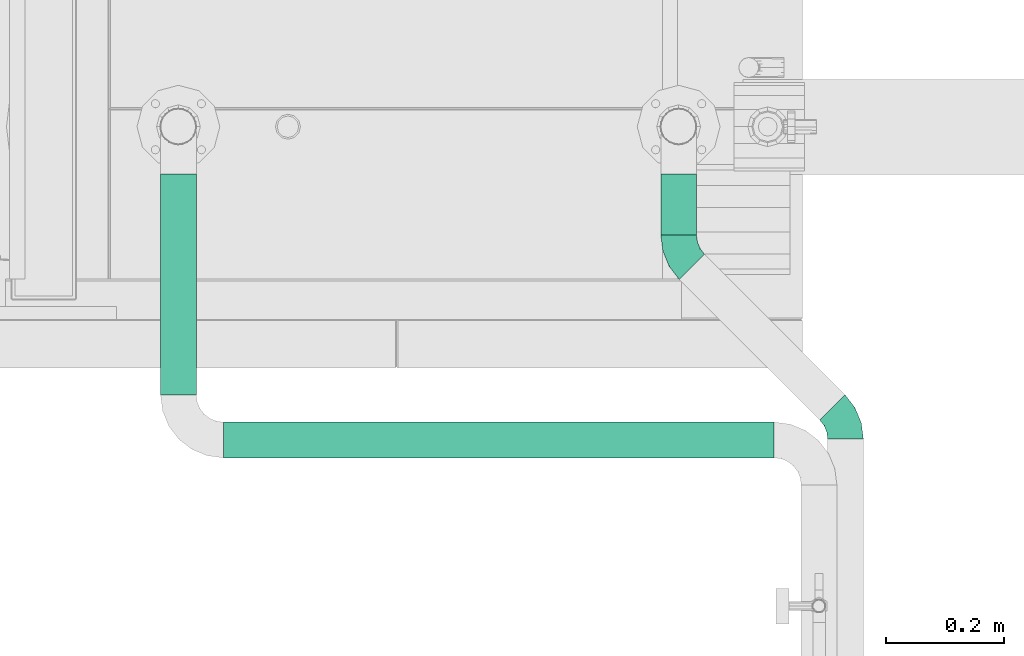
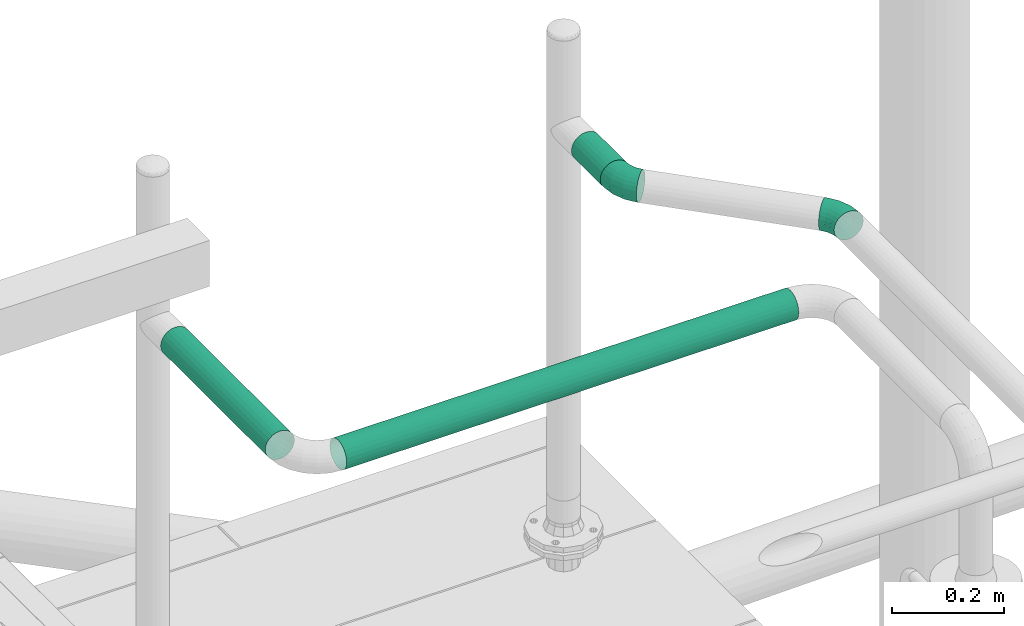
# One storey, part 292 of 374: 5 flow segments.
"""IFC2X3 building model written with IfcOpenShell, lengths in metres."""

import ifcopenshell
import ifcopenshell.guid

model = None  # the IFC model being written
_history = None  # IfcOwnerHistory: only IFC2X3 demands one
_inside = {}  # id of a spatial element -> (the spatial element, [elements in it])
_under = {}  # id of a project, library or spatial element -> (it, [spatial elements below it])
_declared = {}  # id of a project -> (the project, [libraries it declares])
_typed = {}  # id of a type object -> (the type object, [elements of that type])
_made_of = {}  # id of a material, layer set ... -> (it, [elements and type objects made of it])


def new_model(schema):
    """Start an empty IFC model of exactly this schema.

    Asked for "IFC4X3", IfcOpenShell would pick the latest addendum, in which some entities
    have other attributes; the version numbers below select the first issue.
    IFC2X3 requires an IfcOwnerHistory on every rooted entity: one is made here for all.
    """
    global model, _history
    if schema == "IFC4X3":
        model = ifcopenshell.file(schema_version=(4, 3, 0, 0))
    else:
        model = ifcopenshell.file(schema=schema)
    _inside.clear()
    _under.clear()
    _declared.clear()
    _typed.clear()
    _made_of.clear()
    _history = None
    if model.schema == "IFC2X3":
        org = make("IfcOrganization", Name="unknown")
        user = make(
            "IfcPersonAndOrganization",
            ThePerson=make("IfcPerson", FamilyName="unknown"),
            TheOrganization=org,
        )
        app = make(
            "IfcApplication",
            ApplicationDeveloper=org,
            Version="unknown",
            ApplicationFullName="unknown",
            ApplicationIdentifier="unknown",
        )
        _history = make(
            "IfcOwnerHistory",
            OwningUser=user,
            OwningApplication=app,
            ChangeAction="ADDED",
            CreationDate=0,
        )
    return model


def make(cls, **values):
    """One entity of the class cls with the attributes given. An attribute that is None is left unset."""
    return model.create_entity(
        cls, **{name: value for name, value in values.items() if value is not None}
    )


def rooted(cls, **values):
    """An entity with a GlobalId (a new one), such as an element, a storey or a relation."""
    return make(cls, GlobalId=ifcopenshell.guid.new(), OwnerHistory=_history, **values)


def si_unit(unit_type, name, prefix=None):
    """IfcSIUnit, for example si_unit("LENGTHUNIT", "METRE", prefix="MILLI")."""
    return make("IfcSIUnit", UnitType=unit_type, Prefix=prefix, Name=name)


def assignment(units):
    """IfcUnitAssignment: the units of a project."""
    return None if units is None else make("IfcUnitAssignment", Units=units)


def point(xyz):
    """IfcCartesianPoint."""
    return None if xyz is None else make("IfcCartesianPoint", Coordinates=xyz)


def direction(xyz):
    """IfcDirection."""
    return None if xyz is None else make("IfcDirection", DirectionRatios=xyz)


def frame(location, z_axis=None, x_axis=None):
    """IfcAxis2Placement3D, a coordinate frame: its origin and axes. An axis left out is left unset."""
    return make(
        "IfcAxis2Placement3D",
        Location=point(location),
        Axis=direction(z_axis),
        RefDirection=direction(x_axis),
    )


def origin():
    """The frame at (0, 0, 0) with its axes left unset."""
    return frame((0.0, 0.0, 0.0))


def place(relative_to, where):
    """IfcLocalPlacement: puts the frame where relative to a parent placement (None: the world)."""
    return make(
        "IfcLocalPlacement", PlacementRelTo=relative_to, RelativePlacement=where
    )


def context(
    kind, dimensions, precision=None, world=None, true_north=None, identifier=None
):
    """IfcGeometricRepresentationContext, for example the 3D "Model" context."""
    return make(
        "IfcGeometricRepresentationContext",
        ContextIdentifier=identifier,
        ContextType=kind,
        CoordinateSpaceDimension=dimensions,
        Precision=precision,
        WorldCoordinateSystem=world,
        TrueNorth=true_north,
    )


def subcontext(parent, identifier, kind, view, scale=None):
    """IfcGeometricRepresentationSubContext, for example "Body" below "Model"."""
    return make(
        "IfcGeometricRepresentationSubContext",
        ContextIdentifier=identifier,
        ContextType=kind,
        ParentContext=parent,
        TargetScale=scale,
        TargetView=view,
    )


def project(units=None, contexts=None):
    """IfcProject with its units and contexts."""
    return rooted(
        "IfcProject",
        Name="project",
        RepresentationContexts=contexts,
        UnitsInContext=assignment(units),
    )


def spatial(cls, under=None, at=None, **own):
    """A site, building, storey or space (cls), placed at a placement, below another one or the project."""
    s = rooted(cls, ObjectPlacement=at, **own)
    if under is not None:
        _under.setdefault(under.id(), (under, []))[1].append(s)
    return s


def faces_of(points, faces, orient=None, outer=None):
    """IfcFace entities. A face is a list of loops; a loop is a list of indices into points, from 0.

    orient and outer hold one flag for each loop. By default every Orientation is true, the
    first loop of a face is its IfcFaceOuterBound and the others are IfcFaceBound.
    """
    made = []
    for i, loops in enumerate(faces):
        bounds = []
        for j, loop in enumerate(loops):
            is_outer = j == 0 if outer is None else outer[i][j]
            bounds.append(
                make(
                    "IfcFaceOuterBound" if is_outer else "IfcFaceBound",
                    Bound=make("IfcPolyLoop", Polygon=[points[k] for k in loop]),
                    Orientation=True if orient is None else orient[i][j],
                )
            )
        made.append(make("IfcFace", Bounds=bounds))
    return made


def open_shell(faces, orient=None, outer=None):
    """The faces of one IfcOpenShell. surface_model builds it on its shared points."""
    return ("IfcOpenShell", faces, orient, outer)


def surface_model(cls, points, shells):
    """IfcFaceBasedSurfaceModel or IfcShellBasedSurfaceModel (cls): surfaces that need not close."""
    shared = [point(p) for p in points]
    made = [make(c, CfsFaces=faces_of(shared, fs, o, b)) for c, fs, o, b in shells]
    if cls == "IfcFaceBasedSurfaceModel":
        return make(cls, FbsmFaces=made)
    return make(cls, SbsmBoundary=made)


def shape(context_of_items, identifier, shape_type, items):
    """IfcShapeRepresentation: the items that make up one representation, for example the "Body"."""
    return make(
        "IfcShapeRepresentation",
        ContextOfItems=context_of_items,
        RepresentationIdentifier=identifier,
        RepresentationType=shape_type,
        Items=items,
    )


def source(mapping_origin, context_of_items, identifier, shape_type, items):
    """IfcRepresentationMap: a shape defined once, which mapped items show again and again."""
    return make(
        "IfcRepresentationMap",
        MappingOrigin=mapping_origin,
        MappedRepresentation=shape(context_of_items, identifier, shape_type, items),
    )


def transform(
    local_origin,
    x_axis=None,
    y_axis=None,
    z_axis=None,
    scale=None,
    scale2=None,
    scale3=None,
    uniform=True,
):
    """IfcCartesianTransformationOperator3D, or its non-uniform kind. x_axis, y_axis, z_axis: its Axis1, 2, 3."""
    if uniform:
        return make(
            "IfcCartesianTransformationOperator3D",
            Axis1=direction(x_axis),
            Axis2=direction(y_axis),
            LocalOrigin=point(local_origin),
            Scale=scale,
            Axis3=direction(z_axis),
        )
    return make(
        "IfcCartesianTransformationOperator3DnonUniform",
        Axis1=direction(x_axis),
        Axis2=direction(y_axis),
        LocalOrigin=point(local_origin),
        Scale=scale,
        Axis3=direction(z_axis),
        Scale2=scale2,
        Scale3=scale3,
    )


def mapped(mapping_source, mapping_target):
    """IfcMappedItem: shows the shape of a source again, moved by a transform."""
    return make(
        "IfcMappedItem", MappingSource=mapping_source, MappingTarget=mapping_target
    )


def made_of(thing, what):
    """Note that an element or type object is made of a material, layer set ...; save() writes the relation."""
    if what is not None:
        _made_of.setdefault(what.id(), (what, []))[1].append(thing)
    return thing


def element(
    cls,
    number,
    at=None,
    inside=None,
    cuts=None,
    type_object=None,
    material=None,
    context=None,
    identifier="Body",
    shape_type=None,
    held_by="IfcProductDefinitionShape",
    body=None,
    shapes=None,
    **own,
):
    """One element of the class cls, such as IfcWall. Its Tag is "e" and its number.

    at: its placement. inside: the storey or other place that contains it. cuts: it is an
    opening in that element (IfcRelVoidsElement). A single representation is given by context,
    identifier, shape_type and body (its items); several are given by shapes. held_by: the class
    of the entity that holds the representations. save() writes the other relations.
    """
    e = rooted(cls, Tag="e%d" % number, ObjectPlacement=at, **own)
    if body is not None:
        shapes = [shape(context, identifier, shape_type, body)]
    if shapes is not None:
        e.Representation = make(held_by, Representations=shapes)
    if inside is not None:
        _inside.setdefault(inside.id(), (inside, []))[1].append(e)
    if cuts is not None:
        rooted(
            "IfcRelVoidsElement", RelatingBuildingElement=cuts, RelatedOpeningElement=e
        )
    if type_object is not None:
        _typed.setdefault(type_object.id(), (type_object, []))[1].append(e)
    return made_of(e, material)


def aggregate(whole, parts):
    """IfcRelAggregates: a whole, such as a stair, and the parts it consists of."""
    return rooted("IfcRelAggregates", RelatingObject=whole, RelatedObjects=parts)


def save(model, path):
    """Write the relations noted so far, then the file.

    IfcRelAggregates (storeys below a building ...), IfcRelContainedInSpatialStructure (elements
    in a storey), IfcRelDefinesByType, IfcRelAssociatesMaterial and IfcRelDeclares: one each for
    every whole, place, type object, material and project.
    """
    for whole, parts in _under.values():
        aggregate(whole, parts)
    for where, things in _inside.values():
        rooted(
            "IfcRelContainedInSpatialStructure",
            RelatedElements=things,
            RelatingStructure=where,
        )
    for kind, things in _typed.values():
        rooted("IfcRelDefinesByType", RelatedObjects=things, RelatingType=kind)
    for what, things in _made_of.values():
        rooted("IfcRelAssociatesMaterial", RelatedObjects=things, RelatingMaterial=what)
    for by, libraries in _declared.values():
        rooted("IfcRelDeclares", RelatingContext=by, RelatedDefinitions=libraries)
    model.write(path)


model = new_model("IFC2X3")

# Units and contexts
model_context = context("Model", 3, precision=1e-05, world=origin(), true_north=direction((-0.4480736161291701, 0.8939966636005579)))
body_context = subcontext(model_context, "Body", "Model", "MODEL_VIEW")
ifc_project = project(units=[si_unit("LENGTHUNIT", "METRE"), si_unit("AREAUNIT", "SQUARE_METRE"), si_unit("VOLUMEUNIT", "CUBIC_METRE"), si_unit("PLANEANGLEUNIT", "RADIAN"), si_unit("THERMODYNAMICTEMPERATUREUNIT", "KELVIN"), si_unit("MASSUNIT", "GRAM", prefix="KILO"), si_unit("TIMEUNIT", "SECOND")], contexts=[model_context])

# Site, building, storey
site_placement = place(None, origin())
site = spatial("IfcSite", under=ifc_project, at=site_placement, Name="Site 1", CompositionType="ELEMENT")
building_placement = place(site_placement, origin())
building = spatial("IfcBuilding", under=site, at=building_placement, Name="Undefined", CompositionType="ELEMENT")
storey_placement = place(building_placement, origin())
storey = spatial("IfcBuildingStorey", under=building, at=storey_placement, Name="Rez de chauss\x8ee", CompositionType="ELEMENT", Elevation=0.0)

# Flow segments
shared_shape_1 = source(origin(), body_context, "Body", "SurfaceModel", [
    surface_model("IfcFaceBasedSurfaceModel", [(0.027710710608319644, 4.4408921e-16, 0.0), (0.02757661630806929, 0.00786958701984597, 7.105427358e-15), (0.00013409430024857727, 0.00786958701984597, 0.0), (0.0, 0.0, 0.0), (-0.02637334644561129, 0.008788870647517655, -0.0070429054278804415), (-0.026766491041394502, 0.0009282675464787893, -0.007111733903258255), (-0.050139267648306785, 0.010564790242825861, -0.02064875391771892), (-0.050764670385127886, 0.0027215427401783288, -0.02085054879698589), (0.027183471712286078, 0.015466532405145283, -0.0020199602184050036), (0.0005272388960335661, 0.015466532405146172, -0.0020199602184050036), (-0.025220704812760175, 0.016359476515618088, -0.008861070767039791), (-0.048305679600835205, 0.018084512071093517, -0.02207708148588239), (0.026558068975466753, 0.022273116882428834, -0.005922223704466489), (0.001152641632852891, 0.02227311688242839, -0.005922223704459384), (-0.02338711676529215, 0.023124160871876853, -0.012442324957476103), (-0.04538886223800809, 0.02476825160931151, -0.02503819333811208), (0.025743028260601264, 0.0278254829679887, -0.011440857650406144), (0.0019676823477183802, 0.027825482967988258, -0.011440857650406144), (-0.020997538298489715, 0.028621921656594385, -0.017542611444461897), (-0.04158759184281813, 0.03016052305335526, -0.029330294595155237), (0.02479389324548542, 0.03174524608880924, -0.01819977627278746), (0.0029168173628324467, 0.03174524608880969, -0.01819977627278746), (-0.018214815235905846, 0.0324780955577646, -0.023814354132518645), (-0.03716091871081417, 0.033893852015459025, -0.034660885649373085), (0.023775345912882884, 0.03376528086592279, -0.02573837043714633), (0.003935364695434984, 0.03376528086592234, -0.02573837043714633), (-0.01522858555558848, 0.03442989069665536, -0.03083014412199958), (-0.0324105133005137, 0.03571381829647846, -0.040666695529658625), (0.022756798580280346, 0.03374792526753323, -0.033542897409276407), (0.0049539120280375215, 0.033747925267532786, -0.033542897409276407), (-0.01224235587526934, 0.03434429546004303, -0.03811186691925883), (-0.027660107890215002, 0.035496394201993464, -0.04693843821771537), (0.02180766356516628, 0.03169436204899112, -0.04108149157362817), (0.005903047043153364, 0.031694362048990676, -0.04108149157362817), (-0.00945963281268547, 0.03222714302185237, -0.045163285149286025), (-0.02323343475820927, 0.03325639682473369, -0.05304870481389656), (0.020992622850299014, 0.02774453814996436, -0.0478404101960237), (0.006718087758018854, 0.027744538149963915, -0.0478404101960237), (-0.007070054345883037, 0.02822271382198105, -0.05150385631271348), (-0.019432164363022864, 0.0291464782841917, -0.0585810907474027), (0.020367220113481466, 0.022167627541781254, -0.05335904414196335), (0.0073434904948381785, 0.022167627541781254, -0.05335904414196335), (-0.00523646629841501, 0.02260390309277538, -0.05670148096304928), (-0.016515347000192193, 0.023446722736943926, -0.06315857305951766), (0.019974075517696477, 0.01534368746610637, -0.05726130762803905), (0.007736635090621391, 0.01534368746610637, -0.05726130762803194), (-0.004083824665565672, 0.01575362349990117, -0.06040194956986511), (-0.014681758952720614, 0.01654555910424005, -0.06646920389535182), (0.019839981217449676, 0.00773775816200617, -0.05928126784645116), (0.007870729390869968, 0.007737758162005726, -0.05928126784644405), (-0.003690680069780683, 0.008138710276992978, -0.062353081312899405), (-0.014056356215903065, 0.008913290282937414, -0.06828736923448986), (0.019974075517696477, -0.0001318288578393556, -0.05928126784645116), (0.007736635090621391, -0.0001318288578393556, -0.05928126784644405), (-0.004083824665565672, 0.0002781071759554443, -0.06242190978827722), (-0.014681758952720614, 0.001070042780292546, -0.06848916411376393), (0.020367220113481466, -0.007728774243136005, -0.057261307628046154), (0.0073434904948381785, -0.007728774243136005, -0.057261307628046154), (-0.00523646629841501, -0.00729249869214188, -0.06060374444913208), (-0.016515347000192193, -0.0064496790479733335, -0.06706083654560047), (0.020992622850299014, -0.01453535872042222, -0.053359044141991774), (0.006718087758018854, -0.014535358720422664, -0.053359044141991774), (-0.007070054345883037, -0.01405718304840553, -0.05702249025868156), (-0.019432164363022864, -0.013133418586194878, -0.06409972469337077), (0.02180766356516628, -0.020087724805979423, -0.04784041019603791), (0.005903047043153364, -0.020087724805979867, -0.04784041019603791), (-0.00945963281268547, -0.019554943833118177, -0.05192220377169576), (-0.02323343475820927, -0.018525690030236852, -0.0598076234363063), (0.022756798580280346, -0.024007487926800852, -0.0410814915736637), (0.0049539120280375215, -0.024007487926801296, -0.0410814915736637), (-0.01224235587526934, -0.023411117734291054, -0.04565046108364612), (-0.027660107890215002, -0.022259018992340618, -0.054477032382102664), (0.023775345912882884, -0.026027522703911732, -0.033542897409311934), (0.003935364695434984, -0.026027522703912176, -0.033542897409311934), (-0.01522858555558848, -0.025362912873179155, -0.038634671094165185), (-0.0324105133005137, -0.024078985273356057, -0.04847122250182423), (0.02479389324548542, -0.02601016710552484, -0.02573837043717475), (0.0029168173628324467, -0.026010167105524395, -0.02573837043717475), (-0.018214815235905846, -0.025277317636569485, -0.031352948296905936), (-0.03716091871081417, -0.023861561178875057, -0.04219947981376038), (0.025743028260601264, -0.023956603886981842, -0.018199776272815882), (0.0019676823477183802, -0.023956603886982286, -0.018199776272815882), (-0.020997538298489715, -0.02316016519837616, -0.024301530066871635), (-0.04158759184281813, -0.021621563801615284, -0.036089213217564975), (0.026558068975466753, -0.020006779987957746, -0.011440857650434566), (0.001152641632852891, -0.02000677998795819, -0.01144085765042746), (-0.02338711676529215, -0.019155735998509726, -0.01796095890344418), (-0.04538886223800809, -0.01751164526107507, -0.030556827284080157), (0.027183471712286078, -0.014429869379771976, -0.005922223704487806), (0.0005272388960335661, -0.014429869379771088, -0.005922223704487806), (-0.025220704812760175, -0.013536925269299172, -0.012763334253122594), (-0.048305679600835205, -0.011811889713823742, -0.02597934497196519), (0.02757661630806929, -0.007605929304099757, -0.0020199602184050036), (0.00013409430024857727, -0.007605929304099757, -0.002019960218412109), (-0.02637334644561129, -0.006686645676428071, -0.00906286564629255), (-0.050139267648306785, -0.004910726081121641, -0.02266871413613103)], [open_shell([[[0, 1, 2, 3]], [[3, 2, 4, 5]], [[5, 4, 6, 7]], [[1, 8, 9, 2]], [[2, 9, 10, 4]], [[4, 10, 11, 6]], [[8, 12, 13, 9]], [[9, 13, 14, 10]], [[10, 14, 15, 11]], [[12, 16, 17, 13]], [[13, 17, 18, 14]], [[14, 18, 19, 15]], [[16, 20, 21, 17]], [[17, 21, 22, 18]], [[18, 22, 23, 19]], [[20, 24, 25, 21]], [[21, 25, 26, 22]], [[22, 26, 27, 23]], [[24, 28, 29, 25]], [[25, 29, 30, 26]], [[26, 30, 31, 27]], [[28, 32, 33, 29]], [[29, 33, 34, 30]], [[30, 34, 35, 31]], [[32, 36, 37, 33]], [[33, 37, 38, 34]], [[34, 38, 39, 35]], [[36, 40, 41, 37]], [[37, 41, 42, 38]], [[38, 42, 43, 39]], [[40, 44, 45, 41]], [[41, 45, 46, 42]], [[42, 46, 47, 43]], [[44, 48, 49, 45]], [[45, 49, 50, 46]], [[46, 50, 51, 47]], [[48, 52, 53, 49]], [[49, 53, 54, 50]], [[50, 54, 55, 51]], [[52, 56, 57, 53]], [[53, 57, 58, 54]], [[54, 58, 59, 55]], [[56, 60, 61, 57]], [[57, 61, 62, 58]], [[58, 62, 63, 59]], [[60, 64, 65, 61]], [[61, 65, 66, 62]], [[62, 66, 67, 63]], [[64, 68, 69, 65]], [[65, 69, 70, 66]], [[66, 70, 71, 67]], [[68, 72, 73, 69]], [[69, 73, 74, 70]], [[70, 74, 75, 71]], [[72, 76, 77, 73]], [[73, 77, 78, 74]], [[74, 78, 79, 75]], [[76, 80, 81, 77]], [[77, 81, 82, 78]], [[78, 82, 83, 79]], [[80, 84, 85, 81]], [[81, 85, 86, 82]], [[82, 86, 87, 83]], [[84, 88, 89, 85]], [[85, 89, 90, 86]], [[86, 90, 91, 87]], [[88, 92, 93, 89]], [[89, 93, 94, 90]], [[90, 94, 95, 91]], [[92, 0, 3, 93]], [[93, 3, 5, 94]], [[94, 5, 7, 95]]])]),
])
flow_segment_1_placement = place(storey_placement, origin())
element("IfcFlowSegment", 1, at=flow_segment_1_placement, inside=storey, Name="Tube coudé", ObjectType="Tube coudé", context=body_context, shape_type="MappedRepresentation", body=[
    mapped(shared_shape_1, transform((54.735566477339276, 12.845851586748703, 2.1879999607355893), x_axis=(-0.13052619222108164, 0.9914448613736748, 0.0), y_axis=(0.12832103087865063, 0.01689378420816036, -0.9915887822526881), z_axis=(-0.9831056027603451, -0.1294283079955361, -0.12942830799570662))),
])
shared_shape_2 = source(origin(), body_context, "Body", "SurfaceModel", [
    surface_model("IfcFaceBasedSurfaceModel", [(0.027710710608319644, 4.4408921e-16, 0.0), (0.02757661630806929, 0.00786958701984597, 7.105427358e-15), (0.00013409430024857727, 0.00786958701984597, 0.0), (0.0, 0.0, 0.0), (-0.02637334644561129, 0.008788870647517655, -0.0070429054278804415), (-0.026766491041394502, 0.0009282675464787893, -0.007111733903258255), (-0.050139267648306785, 0.010564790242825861, -0.02064875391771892), (-0.050764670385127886, 0.0027215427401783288, -0.02085054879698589), (0.027183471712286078, 0.015466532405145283, -0.0020199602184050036), (0.0005272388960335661, 0.015466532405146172, -0.0020199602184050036), (-0.025220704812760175, 0.016359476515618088, -0.008861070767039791), (-0.048305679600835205, 0.018084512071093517, -0.02207708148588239), (0.026558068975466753, 0.022273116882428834, -0.005922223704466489), (0.001152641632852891, 0.02227311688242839, -0.005922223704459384), (-0.02338711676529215, 0.023124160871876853, -0.012442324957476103), (-0.04538886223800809, 0.02476825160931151, -0.02503819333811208), (0.025743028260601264, 0.0278254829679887, -0.011440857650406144), (0.0019676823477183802, 0.027825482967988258, -0.011440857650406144), (-0.020997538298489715, 0.028621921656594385, -0.017542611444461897), (-0.04158759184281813, 0.03016052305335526, -0.029330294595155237), (0.02479389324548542, 0.03174524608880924, -0.01819977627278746), (0.0029168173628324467, 0.03174524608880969, -0.01819977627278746), (-0.018214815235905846, 0.0324780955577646, -0.023814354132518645), (-0.03716091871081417, 0.033893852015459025, -0.034660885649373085), (0.023775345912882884, 0.03376528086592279, -0.02573837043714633), (0.003935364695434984, 0.03376528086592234, -0.02573837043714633), (-0.01522858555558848, 0.03442989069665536, -0.03083014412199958), (-0.0324105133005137, 0.03571381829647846, -0.040666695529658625), (0.022756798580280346, 0.03374792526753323, -0.033542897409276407), (0.0049539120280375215, 0.033747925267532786, -0.033542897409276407), (-0.01224235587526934, 0.03434429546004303, -0.03811186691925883), (-0.027660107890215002, 0.035496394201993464, -0.04693843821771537), (0.02180766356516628, 0.03169436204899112, -0.04108149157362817), (0.005903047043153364, 0.031694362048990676, -0.04108149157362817), (-0.00945963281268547, 0.03222714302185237, -0.045163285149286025), (-0.02323343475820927, 0.03325639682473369, -0.05304870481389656), (0.020992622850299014, 0.02774453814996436, -0.0478404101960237), (0.006718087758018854, 0.027744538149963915, -0.0478404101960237), (-0.007070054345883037, 0.02822271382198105, -0.05150385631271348), (-0.019432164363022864, 0.0291464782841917, -0.0585810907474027), (0.020367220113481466, 0.022167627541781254, -0.05335904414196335), (0.0073434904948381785, 0.022167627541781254, -0.05335904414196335), (-0.00523646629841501, 0.02260390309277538, -0.05670148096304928), (-0.016515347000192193, 0.023446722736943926, -0.06315857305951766), (0.019974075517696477, 0.01534368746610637, -0.05726130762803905), (0.007736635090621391, 0.01534368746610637, -0.05726130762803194), (-0.004083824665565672, 0.01575362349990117, -0.06040194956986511), (-0.014681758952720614, 0.01654555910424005, -0.06646920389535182), (0.019839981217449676, 0.00773775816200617, -0.05928126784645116), (0.007870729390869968, 0.007737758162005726, -0.05928126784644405), (-0.003690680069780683, 0.008138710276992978, -0.062353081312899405), (-0.014056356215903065, 0.008913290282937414, -0.06828736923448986), (0.019974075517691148, -0.00013182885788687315, -0.05928126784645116), (0.007736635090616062, -0.00013182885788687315, -0.05928126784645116), (-0.004083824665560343, 0.0002781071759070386, -0.062421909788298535), (-0.014681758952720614, 0.001070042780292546, -0.06848916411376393), (0.020367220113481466, -0.007728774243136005, -0.057261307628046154), (0.0073434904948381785, -0.007728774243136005, -0.057261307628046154), (-0.00523646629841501, -0.00729249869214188, -0.06060374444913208), (-0.016515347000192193, -0.0064496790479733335, -0.06706083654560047), (0.020992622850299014, -0.01453535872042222, -0.053359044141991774), (0.006718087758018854, -0.014535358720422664, -0.053359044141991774), (-0.007070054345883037, -0.01405718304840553, -0.05702249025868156), (-0.019432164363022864, -0.013133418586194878, -0.06409972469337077), (0.02180766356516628, -0.020087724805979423, -0.04784041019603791), (0.005903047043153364, -0.020087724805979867, -0.04784041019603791), (-0.00945963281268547, -0.019554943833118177, -0.05192220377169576), (-0.02323343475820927, -0.018525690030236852, -0.0598076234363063), (0.022756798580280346, -0.024007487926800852, -0.0410814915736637), (0.0049539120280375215, -0.024007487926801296, -0.0410814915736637), (-0.01224235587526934, -0.023411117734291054, -0.04565046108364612), (-0.027660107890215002, -0.022259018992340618, -0.054477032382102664), (0.023775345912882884, -0.026027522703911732, -0.033542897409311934), (0.003935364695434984, -0.026027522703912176, -0.033542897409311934), (-0.01522858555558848, -0.025362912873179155, -0.038634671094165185), (-0.0324105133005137, -0.024078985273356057, -0.04847122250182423), (0.02479389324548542, -0.02601016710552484, -0.02573837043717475), (0.0029168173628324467, -0.026010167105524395, -0.02573837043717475), (-0.018214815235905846, -0.025277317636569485, -0.031352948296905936), (-0.03716091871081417, -0.023861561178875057, -0.04219947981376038), (0.025743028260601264, -0.023956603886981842, -0.018199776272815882), (0.0019676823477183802, -0.023956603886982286, -0.018199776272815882), (-0.020997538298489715, -0.02316016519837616, -0.024301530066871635), (-0.04158759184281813, -0.021621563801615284, -0.036089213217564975), (0.026558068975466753, -0.020006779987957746, -0.011440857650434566), (0.001152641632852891, -0.02000677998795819, -0.01144085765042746), (-0.02338711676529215, -0.019155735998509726, -0.01796095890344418), (-0.04538886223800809, -0.01751164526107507, -0.030556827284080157), (0.027183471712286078, -0.014429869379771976, -0.005922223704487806), (0.0005272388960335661, -0.014429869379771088, -0.005922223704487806), (-0.025220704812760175, -0.013536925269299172, -0.012763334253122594), (-0.048305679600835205, -0.011811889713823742, -0.02597934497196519), (0.02757661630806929, -0.007605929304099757, -0.0020199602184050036), (0.00013409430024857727, -0.007605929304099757, -0.002019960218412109), (-0.02637334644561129, -0.006686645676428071, -0.00906286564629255), (-0.050139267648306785, -0.004910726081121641, -0.02266871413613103)], [open_shell([[[0, 1, 2, 3]], [[3, 2, 4, 5]], [[5, 4, 6, 7]], [[1, 8, 9, 2]], [[2, 9, 10, 4]], [[4, 10, 11, 6]], [[8, 12, 13, 9]], [[9, 13, 14, 10]], [[10, 14, 15, 11]], [[12, 16, 17, 13]], [[13, 17, 18, 14]], [[14, 18, 19, 15]], [[16, 20, 21, 17]], [[17, 21, 22, 18]], [[18, 22, 23, 19]], [[20, 24, 25, 21]], [[21, 25, 26, 22]], [[22, 26, 27, 23]], [[24, 28, 29, 25]], [[25, 29, 30, 26]], [[26, 30, 31, 27]], [[28, 32, 33, 29]], [[29, 33, 34, 30]], [[30, 34, 35, 31]], [[32, 36, 37, 33]], [[33, 37, 38, 34]], [[34, 38, 39, 35]], [[36, 40, 41, 37]], [[37, 41, 42, 38]], [[38, 42, 43, 39]], [[40, 44, 45, 41]], [[41, 45, 46, 42]], [[42, 46, 47, 43]], [[44, 48, 49, 45]], [[45, 49, 50, 46]], [[46, 50, 51, 47]], [[48, 52, 53, 49]], [[49, 53, 54, 50]], [[50, 54, 55, 51]], [[52, 56, 57, 53]], [[53, 57, 58, 54]], [[54, 58, 59, 55]], [[56, 60, 61, 57]], [[57, 61, 62, 58]], [[58, 62, 63, 59]], [[60, 64, 65, 61]], [[61, 65, 66, 62]], [[62, 66, 67, 63]], [[64, 68, 69, 65]], [[65, 69, 70, 66]], [[66, 70, 71, 67]], [[68, 72, 73, 69]], [[69, 73, 74, 70]], [[70, 74, 75, 71]], [[72, 76, 77, 73]], [[73, 77, 78, 74]], [[74, 78, 79, 75]], [[76, 80, 81, 77]], [[77, 81, 82, 78]], [[78, 82, 83, 79]], [[80, 84, 85, 81]], [[81, 85, 86, 82]], [[82, 86, 87, 83]], [[84, 88, 89, 85]], [[85, 89, 90, 86]], [[86, 90, 91, 87]], [[88, 92, 93, 89]], [[89, 93, 94, 90]], [[90, 94, 95, 91]], [[92, 0, 3, 93]], [[93, 3, 5, 94]], [[94, 5, 7, 95]]])]),
])
flow_segment_2_placement = place(storey_placement, origin())
element("IfcFlowSegment", 2, at=flow_segment_2_placement, inside=storey, Name="Tube coudé", ObjectType="Tube coudé", context=body_context, shape_type="MappedRepresentation", body=[
    mapped(shared_shape_2, transform((55.06001748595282, 12.581450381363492, 2.1879999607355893), x_axis=(-0.6087614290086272, 0.7933533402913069, 0.0), y_axis=(-0.10268238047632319, -0.07879096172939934, 0.9915887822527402), z_axis=(0.7866802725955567, 0.6036410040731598, 0.12942830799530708))),
])
shared_shape_3 = source(origin(), body_context, "Body", "SurfaceModel", [
    surface_model("IfcFaceBasedSurfaceModel", [(0.0, 0.007870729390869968, 7.105427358e-15), (0.0, 0.0, 0.0), (0.102737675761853, -1.776356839e-15, -7.105427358e-15), (0.102737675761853, 0.007870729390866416, -7.105427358e-15), (0.0, -0.00760254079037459, -0.0020370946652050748), (0.102737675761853, -0.007602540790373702, -0.0020370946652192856), (0.0, -0.01441879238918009, -0.00597245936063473), (0.102737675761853, -0.014418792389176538, -0.005972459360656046), (0.0, -0.019984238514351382, -0.011537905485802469), (0.102737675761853, -0.0199842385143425, -0.01153790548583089), (0.0, -0.023919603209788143, -0.018354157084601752), (0.102737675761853, -0.023919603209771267, -0.018354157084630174), (0.0, -0.025956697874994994, -0.025956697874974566), (0.102737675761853, -0.02595669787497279, -0.025956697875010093), (0.0, -0.025956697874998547, -0.03382742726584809), (0.102737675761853, -0.02595669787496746, -0.03382742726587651), (0.0, -0.02391960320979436, -0.041429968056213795), (0.102737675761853, -0.023919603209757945, -0.04142996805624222), (0.0, -0.019984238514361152, -0.04824621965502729), (0.102737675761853, -0.019984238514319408, -0.04824621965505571), (0.0, -0.01441879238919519, -0.05381166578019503), (0.102737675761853, -0.014418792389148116, -0.053811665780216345), (0.0, -0.007602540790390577, -0.05774703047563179), (0.102737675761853, -0.007602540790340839, -0.057747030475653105), (0.0, -1.7763568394e-14, -0.05978412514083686), (0.102737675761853, 3.3750779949e-14, -0.059784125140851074), (0.0, 0.007870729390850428, -0.05978412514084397), (0.102737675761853, 0.007870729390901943, -0.059784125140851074), (0.0, 0.015473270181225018, -0.057747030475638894), (0.102737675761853, 0.015473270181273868, -0.05774703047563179), (0.0, 0.022289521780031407, -0.05381166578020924), (0.102737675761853, 0.022289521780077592, -0.053811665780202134), (0.0, 0.027854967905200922, -0.048246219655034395), (0.102737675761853, 0.02785496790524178, -0.048246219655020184), (0.0, 0.031790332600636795, -0.04142996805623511), (0.102737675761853, 0.03179033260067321, -0.041429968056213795), (0.0, 0.033827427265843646, -0.0338274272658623), (0.102737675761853, 0.033827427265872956, -0.03382742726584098), (0.0, 0.0338274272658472, -0.025956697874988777), (0.102737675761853, 0.03382742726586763, -0.02595669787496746), (0.0, 0.0317903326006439, -0.01835415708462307), (0.102737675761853, 0.03179033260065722, -0.018354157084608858), (0.0, 0.02785496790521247, -0.01153790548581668), (0.102737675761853, 0.027854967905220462, -0.011537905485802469), (0.0, 0.022289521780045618, -0.005972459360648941), (0.102737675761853, 0.022289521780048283, -0.00597245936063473), (0.0, 0.015473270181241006, -0.0020370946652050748), (0.102737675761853, 0.015473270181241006, -0.0020370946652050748)], [open_shell([[[0, 1, 2, 3]], [[1, 4, 5, 2]], [[4, 6, 7, 5]], [[6, 8, 9, 7]], [[8, 10, 11, 9]], [[10, 12, 13, 11]], [[12, 14, 15, 13]], [[14, 16, 17, 15]], [[16, 18, 19, 17]], [[18, 20, 21, 19]], [[20, 22, 23, 21]], [[22, 24, 25, 23]], [[24, 26, 27, 25]], [[26, 28, 29, 27]], [[28, 30, 31, 29]], [[30, 32, 33, 31]], [[32, 34, 35, 33]], [[34, 36, 37, 35]], [[36, 38, 39, 37]], [[38, 40, 41, 39]], [[40, 42, 43, 41]], [[42, 44, 45, 43]], [[44, 46, 47, 45]], [[46, 0, 3, 47]]])]),
])
flow_segment_3_placement = place(storey_placement, origin())
element("IfcFlowSegment", 3, at=flow_segment_3_placement, inside=storey, Name="Tube acier d'après DIN 2448", ObjectType="Tube acier d'après DIN 2448", context=body_context, shape_type="MappedRepresentation", body=[
    mapped(shared_shape_3, transform((54.73297684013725, 12.976062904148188, 2.1801965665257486), x_axis=(0.0, -1.0, 0.0), y_axis=(-0.13052619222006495, 0.0, 0.9914448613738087), z_axis=(-0.9914448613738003, 0.0, -0.13052619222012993))),
])
shared_shape_4 = source(origin(), body_context, "Body", "SurfaceModel", [
    surface_model("IfcFaceBasedSurfaceModel", [(0.0, 0.007870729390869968, 7.105427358e-15), (0.0, 0.0, 0.0), (0.37294159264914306, -7.105427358e-15, 0.0), (0.37294159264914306, 0.007870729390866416, 0.0), (0.0, -0.00760254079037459, -0.0020370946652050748), (0.37294159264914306, -0.007602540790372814, -0.0020370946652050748), (0.0, -0.01441879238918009, -0.00597245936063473), (0.37294159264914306, -0.014418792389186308, -0.0059724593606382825), (0.0, -0.019984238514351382, -0.011537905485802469), (0.37294159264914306, -0.01998423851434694, -0.011537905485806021), (0.0, -0.023919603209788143, -0.018354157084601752), (0.37294159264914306, -0.023919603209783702, -0.018354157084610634), (0.0, -0.025956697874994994, -0.025956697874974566), (0.37294159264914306, -0.025956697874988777, -0.02595669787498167), (0.0, -0.025956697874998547, -0.03382742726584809), (0.37294159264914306, -0.025956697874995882, -0.03382742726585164), (0.0, -0.02391960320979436, -0.041429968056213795), (0.37294159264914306, -0.023919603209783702, -0.04142996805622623), (0.0, -0.019984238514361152, -0.04824621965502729), (0.37294159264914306, -0.019984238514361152, -0.04824621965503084), (0.0, -0.01441879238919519, -0.05381166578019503), (0.37294159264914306, -0.014418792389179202, -0.05381166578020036), (0.0, -0.007602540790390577, -0.05774703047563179), (0.37294159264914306, -0.007602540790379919, -0.05774703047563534), (0.0, -1.7763568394e-14, -0.05978412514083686), (0.37294159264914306, -7.105427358e-15, -0.059784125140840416), (0.0, 0.007870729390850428, -0.05978412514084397), (0.37294159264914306, 0.007870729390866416, -0.059784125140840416), (0.0, 0.015473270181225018, -0.057747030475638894), (0.37294159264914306, 0.015473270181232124, -0.05774703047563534), (0.0, 0.022289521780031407, -0.05381166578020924), (0.37294159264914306, 0.022289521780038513, -0.053811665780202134), (0.0, 0.027854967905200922, -0.048246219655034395), (0.37294159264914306, 0.02785496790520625, -0.048246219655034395), (0.0, 0.031790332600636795, -0.04142996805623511), (0.37294159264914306, 0.03179033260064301, -0.04142996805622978), (0.0, 0.033827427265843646, -0.0338274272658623), (0.37294159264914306, 0.03382742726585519, -0.03382742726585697), (0.0, 0.0338274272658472, -0.025956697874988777), (0.37294159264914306, 0.03382742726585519, -0.025956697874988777), (0.0, 0.0317903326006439, -0.01835415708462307), (0.37294159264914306, 0.03179033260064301, -0.018354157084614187), (0.0, 0.02785496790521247, -0.01153790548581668), (0.37294159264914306, 0.027854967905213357, -0.011537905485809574), (0.0, 0.022289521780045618, -0.005972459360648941), (0.37294159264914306, 0.022289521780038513, -0.005972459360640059), (0.0, 0.015473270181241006, -0.0020370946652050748), (0.37294159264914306, 0.01547327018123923, -0.002037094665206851)], [open_shell([[[0, 1, 2, 3]], [[1, 4, 5, 2]], [[4, 6, 7, 5]], [[6, 8, 9, 7]], [[8, 10, 11, 9]], [[10, 12, 13, 11]], [[12, 14, 15, 13]], [[14, 16, 17, 15]], [[16, 18, 19, 17]], [[18, 20, 21, 19]], [[20, 22, 23, 21]], [[22, 24, 25, 23]], [[24, 26, 27, 25]], [[26, 28, 29, 27]], [[28, 30, 31, 29]], [[30, 32, 33, 31]], [[32, 34, 35, 33]], [[34, 36, 37, 35]], [[36, 38, 39, 37]], [[38, 40, 41, 39]], [[40, 42, 43, 41]], [[42, 44, 45, 43]], [[44, 46, 47, 45]], [[46, 0, 3, 47]]])]),
])
flow_segment_4_placement = place(storey_placement, origin())
element("IfcFlowSegment", 4, at=flow_segment_4_placement, inside=storey, Name="Tube acier d'après DIN 2448", ObjectType="Tube acier d'après DIN 2448", context=body_context, shape_type="MappedRepresentation", body=[
    mapped(shared_shape_4, transform((53.924902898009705, 12.603121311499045, 2.0887643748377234), x_axis=(0.0, 1.0, 0.0), y_axis=(-0.9914448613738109, 0.0, 0.1305261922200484), z_axis=(0.1305261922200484, 0.0, 0.9914448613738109))),
])
shared_shape_5 = source(origin(), body_context, "Body", "SurfaceModel", [
    surface_model("IfcFaceBasedSurfaceModel", [(0.0, 0.007870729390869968, 7.105427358e-15), (0.0, 0.0, 0.0), (0.930229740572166, -1.776356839e-15, 0.0), (0.930229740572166, 0.007870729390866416, 0.0), (0.0, -0.00760254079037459, -0.0020370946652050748), (0.930229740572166, -0.007602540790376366, -0.0020370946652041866), (0.0, -0.01441879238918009, -0.00597245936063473), (0.930229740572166, -0.014418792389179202, -0.005972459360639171), (0.0, -0.019984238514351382, -0.011537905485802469), (0.930229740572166, -0.019984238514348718, -0.01153790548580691), (0.0, -0.023919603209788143, -0.018354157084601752), (0.930229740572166, -0.023919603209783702, -0.01835415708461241), (0.0, -0.025956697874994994, -0.025956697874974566), (0.930229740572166, -0.025956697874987, -0.025956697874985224), (0.0, -0.025956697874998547, -0.03382742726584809), (0.930229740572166, -0.025956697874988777, -0.033827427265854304), (0.0, -0.02391960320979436, -0.041429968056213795), (0.930229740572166, -0.023919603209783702, -0.04142996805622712), (0.0, -0.019984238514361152, -0.04824621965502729), (0.930229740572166, -0.019984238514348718, -0.04824621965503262), (0.0, -0.01441879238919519, -0.05381166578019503), (0.930229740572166, -0.014418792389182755, -0.05381166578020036), (0.0, -0.007602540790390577, -0.05774703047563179), (0.930229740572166, -0.007602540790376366, -0.05774703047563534), (0.0, -1.7763568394e-14, -0.05978412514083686), (0.930229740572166, -3.552713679e-15, -0.059784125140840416), (0.0, 0.007870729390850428, -0.05978412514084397), (0.930229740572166, 0.007870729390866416, -0.059784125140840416), (0.0, 0.015473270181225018, -0.057747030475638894), (0.930229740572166, 0.01547327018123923, -0.05774703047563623), (0.0, 0.022289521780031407, -0.05381166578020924), (0.930229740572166, 0.022289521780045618, -0.05381166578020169), (0.0, 0.027854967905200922, -0.048246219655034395), (0.930229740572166, 0.027854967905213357, -0.04824621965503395), (0.0, 0.031790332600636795, -0.04142996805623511), (0.930229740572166, 0.031790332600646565, -0.041429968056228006), (0.0, 0.033827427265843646, -0.0338274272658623), (0.930229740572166, 0.03382742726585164, -0.03382742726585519), (0.0, 0.0338274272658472, -0.025956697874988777), (0.930229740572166, 0.03382742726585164, -0.025956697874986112), (0.0, 0.0317903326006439, -0.01835415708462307), (0.930229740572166, 0.03179033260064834, -0.018354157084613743), (0.0, 0.02785496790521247, -0.01153790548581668), (0.930229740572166, 0.027854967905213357, -0.011537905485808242), (0.0, 0.022289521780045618, -0.005972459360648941), (0.930229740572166, 0.022289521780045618, -0.005972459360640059), (0.0, 0.015473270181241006, -0.0020370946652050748), (0.930229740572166, 0.015473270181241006, -0.0020370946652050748)], [open_shell([[[0, 1, 2, 3]], [[1, 4, 5, 2]], [[4, 6, 7, 5]], [[6, 8, 9, 7]], [[8, 10, 11, 9]], [[10, 12, 13, 11]], [[12, 14, 15, 13]], [[14, 16, 17, 15]], [[16, 18, 19, 17]], [[18, 20, 21, 19]], [[20, 22, 23, 21]], [[22, 24, 25, 23]], [[24, 26, 27, 25]], [[26, 28, 29, 27]], [[28, 30, 31, 29]], [[30, 32, 33, 31]], [[32, 34, 35, 33]], [[34, 36, 37, 35]], [[36, 38, 39, 37]], [[38, 40, 41, 39]], [[40, 42, 43, 41]], [[42, 44, 45, 43]], [[44, 46, 47, 45]], [[46, 0, 3, 47]]])]),
])
flow_segment_5_placement = place(storey_placement, origin())
element("IfcFlowSegment", 5, at=flow_segment_5_placement, inside=storey, Name="Tube acier d'après DIN 2448", ObjectType="Tube acier d'après DIN 2448", context=body_context, shape_type="MappedRepresentation", body=[
    mapped(shared_shape_5, transform((54.923329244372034, 12.534924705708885, 2.0887643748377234), x_axis=(-1.0, 0.0, 0.0), y_axis=(7.266545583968e-12, -0.9914448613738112, 0.13052619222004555), z_axis=(0.0, 0.13052619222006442, 0.9914448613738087))),
])

save(model, "model.ifc")
